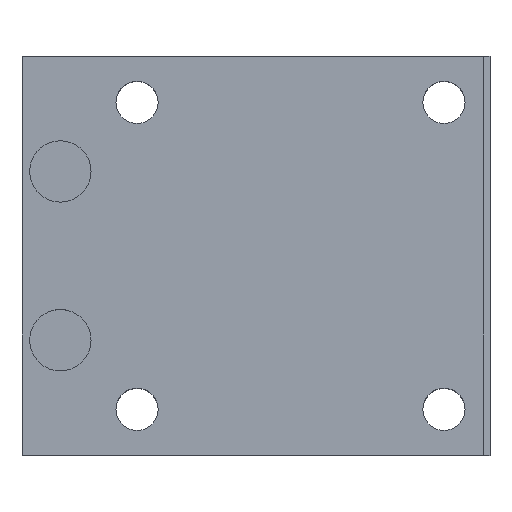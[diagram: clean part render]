
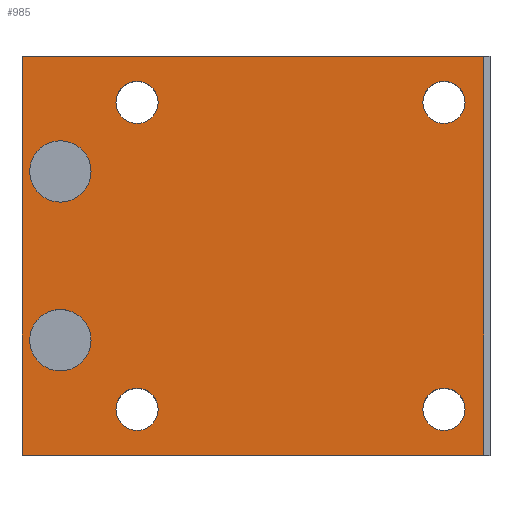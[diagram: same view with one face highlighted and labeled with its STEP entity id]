
A CAD part, top view. The second image highlights one B-rep face of the part: STEP entity #985.
In plain terms, the highlighted planar face has unit normal (0, 0, 1).
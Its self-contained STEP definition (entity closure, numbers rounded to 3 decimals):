
#8 = CIRCLE ( 'NONE', #953, 4. ) ;
#22 = CARTESIAN_POINT ( 'NONE',  ( 20., -20., 86.5 ) ) ;
#30 = EDGE_LOOP ( 'NONE', ( #1176, #980 ) ) ;
#85 = VERTEX_POINT ( 'NONE', #1224 ) ;
#102 = ORIENTED_EDGE ( 'NONE', *, *, #959, .T. ) ;
#119 = ORIENTED_EDGE ( 'NONE', *, *, #1487, .F. ) ;
#121 = EDGE_CURVE ( 'NONE', #866, #1624, #1282, .T. ) ;
#139 = DIRECTION ( 'NONE',  ( -1., 0., 0. ) ) ;
#166 = DIRECTION ( 'NONE',  ( 1., 0., 0. ) ) ;
#178 = DIRECTION ( 'NONE',  ( 0., 0., 1. ) ) ;
#181 = VERTEX_POINT ( 'NONE', #1280 ) ;
#183 = EDGE_LOOP ( 'NONE', ( #721, #311 ) ) ;
#199 = DIRECTION ( 'NONE',  ( 1., 0., 0. ) ) ;
#209 = ORIENTED_EDGE ( 'NONE', *, *, #1160, .T. ) ;
#223 = CARTESIAN_POINT ( 'NONE',  ( -35., 26., 86.5 ) ) ;
#224 = EDGE_CURVE ( 'NONE', #1578, #1342, #1142, .T. ) ;
#237 = DIRECTION ( 'NONE',  ( 0., 0., 1. ) ) ;
#239 = FACE_BOUND ( 'NONE', #183, .T. ) ;
#253 = CIRCLE ( 'NONE', #531, 2.75 ) ;
#293 = DIRECTION ( 'NONE',  ( 0., 0., 1. ) ) ;
#311 = ORIENTED_EDGE ( 'NONE', *, *, #343, .F. ) ;
#314 = ORIENTED_EDGE ( 'NONE', *, *, #372, .F. ) ;
#319 = DIRECTION ( 'NONE',  ( 1., 0., 0. ) ) ;
#325 = DIRECTION ( 'NONE',  ( 1., 0., 0. ) ) ;
#326 = EDGE_CURVE ( 'NONE', #1302, #975, #330, .T. ) ;
#330 = LINE ( 'NONE', #872, #367 ) ;
#343 = EDGE_CURVE ( 'NONE', #568, #1506, #8, .T. ) ;
#356 = EDGE_CURVE ( 'NONE', #1506, #568, #552, .T. ) ;
#367 = VECTOR ( 'NONE', #1627, 1000. ) ;
#368 = VECTOR ( 'NONE', #1409, 1000. ) ;
#369 = CARTESIAN_POINT ( 'NONE',  ( 20., -20., 86.5 ) ) ;
#371 = CARTESIAN_POINT ( 'NONE',  ( -35., -26., 86.5 ) ) ;
#372 = EDGE_CURVE ( 'NONE', #1047, #181, #1284, .T. ) ;
#380 = EDGE_CURVE ( 'NONE', #1342, #1578, #253, .T. ) ;
#381 = CARTESIAN_POINT ( 'NONE',  ( -34., -11., 86.5 ) ) ;
#418 = EDGE_CURVE ( 'NONE', #1624, #866, #1706, .T. ) ;
#422 = DIRECTION ( 'NONE',  ( 0., 0., 1. ) ) ;
#429 = VERTEX_POINT ( 'NONE', #223 ) ;
#447 = VERTEX_POINT ( 'NONE', #505 ) ;
#459 = DIRECTION ( 'NONE',  ( 0., 0., 1. ) ) ;
#470 = DIRECTION ( 'NONE',  ( 1., 0., 0. ) ) ;
#471 = VERTEX_POINT ( 'NONE', #764 ) ;
#476 = AXIS2_PLACEMENT_3D ( 'NONE', #691, #824, #1602 ) ;
#478 = AXIS2_PLACEMENT_3D ( 'NONE', #1501, #897, #1416 ) ;
#505 = CARTESIAN_POINT ( 'NONE',  ( -17.25, -20., 86.5 ) ) ;
#521 = CARTESIAN_POINT ( 'NONE',  ( -20., -20., 86.5 ) ) ;
#531 = AXIS2_PLACEMENT_3D ( 'NONE', #22, #1632, #862 ) ;
#532 = EDGE_CURVE ( 'NONE', #181, #1047, #1354, .T. ) ;
#552 = CIRCLE ( 'NONE', #977, 4. ) ;
#568 = VERTEX_POINT ( 'NONE', #704 ) ;
#579 = VECTOR ( 'NONE', #139, 1000. ) ;
#588 = ORIENTED_EDGE ( 'NONE', *, *, #869, .F. ) ;
#614 = LINE ( 'NONE', #1507, #368 ) ;
#626 = EDGE_CURVE ( 'NONE', #975, #1649, #614, .T. ) ;
#630 = CARTESIAN_POINT ( 'NONE',  ( 17.25, -20., 86.5 ) ) ;
#636 = FACE_BOUND ( 'NONE', #1324, .T. ) ;
#663 = DIRECTION ( 'NONE',  ( 1., 0., 0. ) ) ;
#690 = AXIS2_PLACEMENT_3D ( 'NONE', #1004, #459, #325 ) ;
#691 = CARTESIAN_POINT ( 'NONE',  ( -20., 20., 86.5 ) ) ;
#700 = CARTESIAN_POINT ( 'NONE',  ( 20., 20., 86.5 ) ) ;
#704 = CARTESIAN_POINT ( 'NONE',  ( -34., 11., 86.5 ) ) ;
#710 = ORIENTED_EDGE ( 'NONE', *, *, #326, .T. ) ;
#716 = EDGE_LOOP ( 'NONE', ( #1008, #588 ) ) ;
#721 = ORIENTED_EDGE ( 'NONE', *, *, #356, .F. ) ;
#757 = AXIS2_PLACEMENT_3D ( 'NONE', #1044, #1171, #663 ) ;
#760 = AXIS2_PLACEMENT_3D ( 'NONE', #1664, #178, #1527 ) ;
#764 = CARTESIAN_POINT ( 'NONE',  ( -22.75, 20., 86.5 ) ) ;
#780 = FACE_BOUND ( 'NONE', #30, .T. ) ;
#802 = FACE_BOUND ( 'NONE', #1332, .T. ) ;
#814 = CIRCLE ( 'NONE', #760, 2.75 ) ;
#824 = DIRECTION ( 'NONE',  ( 0., 0., 1. ) ) ;
#862 = DIRECTION ( 'NONE',  ( 1., 0., 0. ) ) ;
#866 = VERTEX_POINT ( 'NONE', #381 ) ;
#869 = EDGE_CURVE ( 'NONE', #85, #447, #910, .T. ) ;
#872 = CARTESIAN_POINT ( 'NONE',  ( 26., -26., 86.5 ) ) ;
#876 = AXIS2_PLACEMENT_3D ( 'NONE', #1702, #1040, #1573 ) ;
#897 = DIRECTION ( 'NONE',  ( 0., 0., 1. ) ) ;
#901 = VECTOR ( 'NONE', #1299, 1000. ) ;
#910 = CIRCLE ( 'NONE', #1474, 2.75 ) ;
#913 = CARTESIAN_POINT ( 'NONE',  ( 25.2, -26., 86.5 ) ) ;
#927 = EDGE_LOOP ( 'NONE', ( #710, #1295, #209, #102 ) ) ;
#953 = AXIS2_PLACEMENT_3D ( 'NONE', #1395, #1111, #199 ) ;
#959 = EDGE_CURVE ( 'NONE', #429, #1302, #1455, .T. ) ;
#960 = CARTESIAN_POINT ( 'NONE',  ( -26., 11., 86.5 ) ) ;
#962 = LINE ( 'NONE', #1326, #579 ) ;
#975 = VERTEX_POINT ( 'NONE', #913 ) ;
#977 = AXIS2_PLACEMENT_3D ( 'NONE', #1379, #293, #319 ) ;
#980 = ORIENTED_EDGE ( 'NONE', *, *, #121, .F. ) ;
#985 = ADVANCED_FACE ( 'NONE', ( #1431, #1037, #802, #636, #239, #780, #1586 ), #1594, .T. ) ;
#1004 = CARTESIAN_POINT ( 'NONE',  ( -30., -11., 86.5 ) ) ;
#1008 = ORIENTED_EDGE ( 'NONE', *, *, #1288, .F. ) ;
#1021 = DIRECTION ( 'NONE',  ( 1., 0., 0. ) ) ;
#1037 = FACE_BOUND ( 'NONE', #1081, .T. ) ;
#1040 = DIRECTION ( 'NONE',  ( 0., 0., 1. ) ) ;
#1044 = CARTESIAN_POINT ( 'NONE',  ( 0., 0., 86.5 ) ) ;
#1047 = VERTEX_POINT ( 'NONE', #1050 ) ;
#1050 = CARTESIAN_POINT ( 'NONE',  ( 22.75, 20., 86.5 ) ) ;
#1081 = EDGE_LOOP ( 'NONE', ( #1543, #1400 ) ) ;
#1085 = AXIS2_PLACEMENT_3D ( 'NONE', #700, #1648, #470 ) ;
#1110 = CARTESIAN_POINT ( 'NONE',  ( 25.2, 26., 86.5 ) ) ;
#1111 = DIRECTION ( 'NONE',  ( 0., 0., 1. ) ) ;
#1133 = CARTESIAN_POINT ( 'NONE',  ( -35., -26., 86.5 ) ) ;
#1142 = CIRCLE ( 'NONE', #1352, 2.75 ) ;
#1160 = EDGE_CURVE ( 'NONE', #1649, #429, #962, .T. ) ;
#1171 = DIRECTION ( 'NONE',  ( 0., 0., 1. ) ) ;
#1176 = ORIENTED_EDGE ( 'NONE', *, *, #418, .F. ) ;
#1178 = DIRECTION ( 'NONE',  ( 1., 0., 0. ) ) ;
#1193 = AXIS2_PLACEMENT_3D ( 'NONE', #1598, #422, #166 ) ;
#1224 = CARTESIAN_POINT ( 'NONE',  ( -22.75, -20., 86.5 ) ) ;
#1231 = ORIENTED_EDGE ( 'NONE', *, *, #532, .F. ) ;
#1236 = CARTESIAN_POINT ( 'NONE',  ( -26., -11., 86.5 ) ) ;
#1280 = CARTESIAN_POINT ( 'NONE',  ( 17.25, 20., 86.5 ) ) ;
#1282 = CIRCLE ( 'NONE', #690, 4. ) ;
#1284 = CIRCLE ( 'NONE', #1085, 2.75 ) ;
#1288 = EDGE_CURVE ( 'NONE', #447, #85, #814, .T. ) ;
#1295 = ORIENTED_EDGE ( 'NONE', *, *, #626, .T. ) ;
#1299 = DIRECTION ( 'NONE',  ( 0., -1., 0. ) ) ;
#1302 = VERTEX_POINT ( 'NONE', #1133 ) ;
#1323 = CARTESIAN_POINT ( 'NONE',  ( 22.75, -20., 86.5 ) ) ;
#1324 = EDGE_LOOP ( 'NONE', ( #119, #1684 ) ) ;
#1326 = CARTESIAN_POINT ( 'NONE',  ( 26., 26., 86.5 ) ) ;
#1332 = EDGE_LOOP ( 'NONE', ( #314, #1231 ) ) ;
#1342 = VERTEX_POINT ( 'NONE', #630 ) ;
#1352 = AXIS2_PLACEMENT_3D ( 'NONE', #369, #237, #1021 ) ;
#1354 = CIRCLE ( 'NONE', #876, 2.75 ) ;
#1358 = CARTESIAN_POINT ( 'NONE',  ( -17.25, 20., 86.5 ) ) ;
#1379 = CARTESIAN_POINT ( 'NONE',  ( -30., 11., 86.5 ) ) ;
#1395 = CARTESIAN_POINT ( 'NONE',  ( -30., 11., 86.5 ) ) ;
#1400 = ORIENTED_EDGE ( 'NONE', *, *, #380, .F. ) ;
#1409 = DIRECTION ( 'NONE',  ( 0., 1., 0. ) ) ;
#1416 = DIRECTION ( 'NONE',  ( 1., 0., 0. ) ) ;
#1420 = CIRCLE ( 'NONE', #476, 2.75 ) ;
#1431 = FACE_BOUND ( 'NONE', #716, .T. ) ;
#1440 = DIRECTION ( 'NONE',  ( 0., 0., 1. ) ) ;
#1455 = LINE ( 'NONE', #371, #901 ) ;
#1474 = AXIS2_PLACEMENT_3D ( 'NONE', #521, #1440, #1178 ) ;
#1487 = EDGE_CURVE ( 'NONE', #1510, #471, #1533, .T. ) ;
#1501 = CARTESIAN_POINT ( 'NONE',  ( -30., -11., 86.5 ) ) ;
#1505 = EDGE_CURVE ( 'NONE', #471, #1510, #1420, .T. ) ;
#1506 = VERTEX_POINT ( 'NONE', #960 ) ;
#1507 = CARTESIAN_POINT ( 'NONE',  ( 25.2, 26., 86.5 ) ) ;
#1510 = VERTEX_POINT ( 'NONE', #1358 ) ;
#1527 = DIRECTION ( 'NONE',  ( 1., 0., 0. ) ) ;
#1533 = CIRCLE ( 'NONE', #1193, 2.75 ) ;
#1543 = ORIENTED_EDGE ( 'NONE', *, *, #224, .F. ) ;
#1573 = DIRECTION ( 'NONE',  ( 1., 0., 0. ) ) ;
#1578 = VERTEX_POINT ( 'NONE', #1323 ) ;
#1586 = FACE_OUTER_BOUND ( 'NONE', #927, .T. ) ;
#1594 = PLANE ( 'NONE',  #757 ) ;
#1598 = CARTESIAN_POINT ( 'NONE',  ( -20., 20., 86.5 ) ) ;
#1602 = DIRECTION ( 'NONE',  ( 1., 0., 0. ) ) ;
#1624 = VERTEX_POINT ( 'NONE', #1236 ) ;
#1627 = DIRECTION ( 'NONE',  ( 1., 0., 0. ) ) ;
#1632 = DIRECTION ( 'NONE',  ( 0., 0., 1. ) ) ;
#1648 = DIRECTION ( 'NONE',  ( 0., 0., 1. ) ) ;
#1649 = VERTEX_POINT ( 'NONE', #1110 ) ;
#1664 = CARTESIAN_POINT ( 'NONE',  ( -20., -20., 86.5 ) ) ;
#1684 = ORIENTED_EDGE ( 'NONE', *, *, #1505, .F. ) ;
#1702 = CARTESIAN_POINT ( 'NONE',  ( 20., 20., 86.5 ) ) ;
#1706 = CIRCLE ( 'NONE', #478, 4. ) ;
